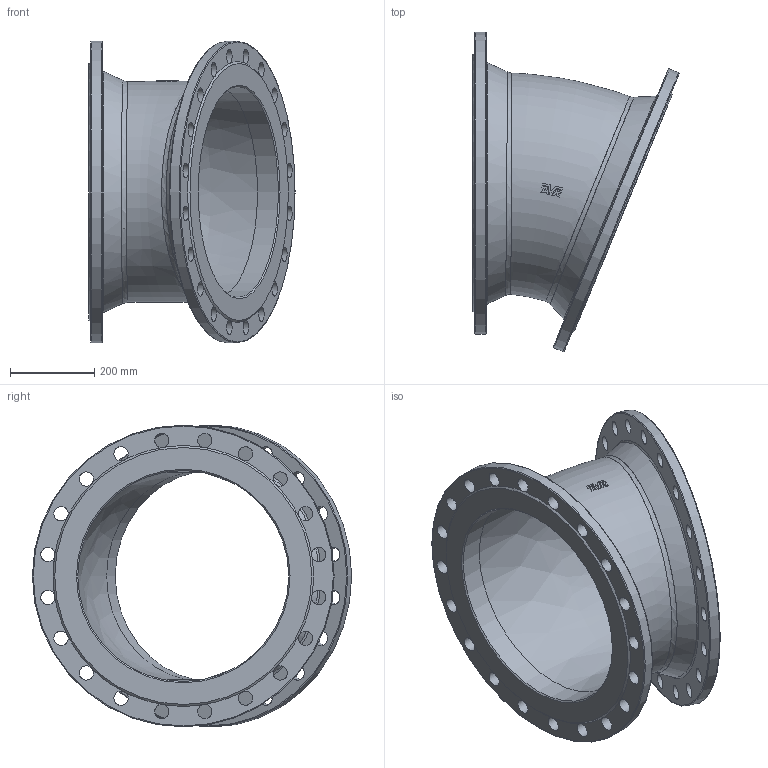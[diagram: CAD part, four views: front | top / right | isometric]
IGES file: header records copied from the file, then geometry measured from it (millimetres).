
Start section: SolidWorks IGES file using analytic representation for surfaces
Global section: file name: \\avksan2\techshare\PBM outline export from Enovia\O_712_0210_DN500_1X_REV01.igs; native system: SolidWorks 2022; preprocessor: SolidWorks 2022; author: pbm; date: 240815.143012; units: millimetre
Bounding box: 488.42 x 756.43 x 715 mm (x, y, z)
Surface area: 1958229.3 mm2 (no closed solid volume)
Topology: 0 solids, 0 shells, 107 faces, 697 edges, 637 vertices
Faces by surface type: revolution 64, bspline 43
